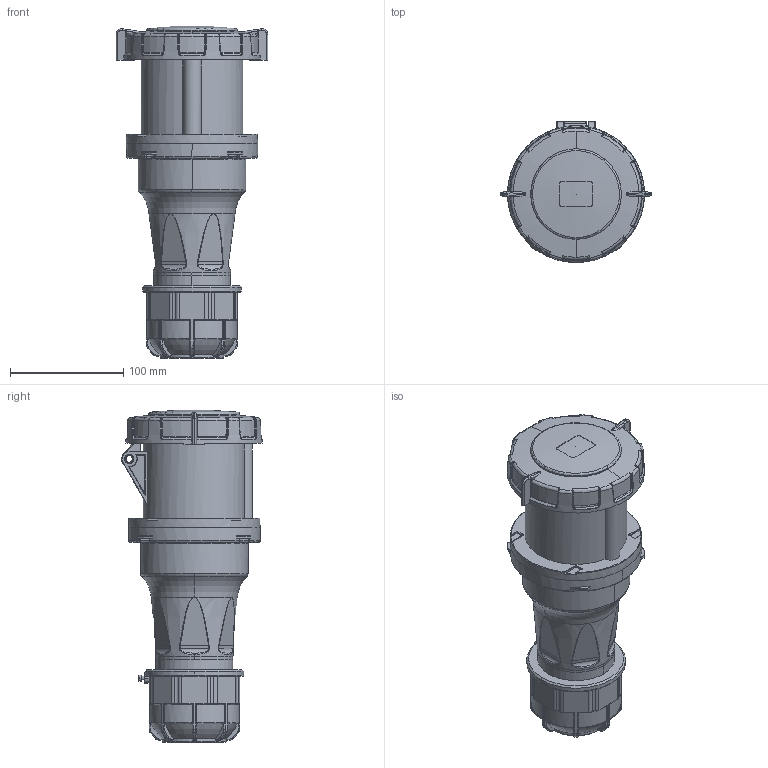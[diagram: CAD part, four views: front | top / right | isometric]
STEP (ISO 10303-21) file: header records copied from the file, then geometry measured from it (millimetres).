
FILE_DESCRIPTION(('FreeCAD Model'),'2;1');
FILE_NAME('Open CASCADE Shape Model','2026-02-04T08:57:35',(''),(''), 'Open CASCADE STEP processor 7.8','FreeCAD','Unknown');
FILE_SCHEMA(('AUTOMOTIVE_DESIGN { 1 0 10303 214 1 1 1 1 }'));
Length unit declared in the file: millimetre
Products named in the file (7): TL3T125653; Tampa parte 2; Corpo tomada; Tampa parte 1; Prensa cabo; Parafuso prensa cabo; Corpo acoplamento
Assembly tree (6 placements, depth 2):
  TL3T125653
    Tampa parte 2
    Corpo tomada
    Tampa parte 1
    Prensa cabo
    Parafuso prensa cabo
    Corpo acoplamento
Bounding box: 134 x 124.4 x 293.11 mm (x, y, z)
Volume: 1079292.7 mm3; surface area: 297749.7 mm2
Topology: 6 solids, 7 shells, 1532 faces, 3890 edges, 2391 vertices
Faces by surface type: cylinder 486, plane 421, bspline 281, torus 240, cone 80, sphere 24
Full cylindrical faces by diameter (mm): 3.5 x1, 5.3 x1, 6.6 x1, 78.4 x1, 79.3 x1, 80 x1, 94.5 x1, 111 x1
Entity records: 62928 total; most frequent: CARTESIAN_POINT 27555, ORIENTED_EDGE 7776, DIRECTION 7146, EDGE_CURVE 3888, AXIS2_PLACEMENT_3D 2939, VERTEX_POINT 2391, CIRCLE 1629, FACE_BOUND 1563
